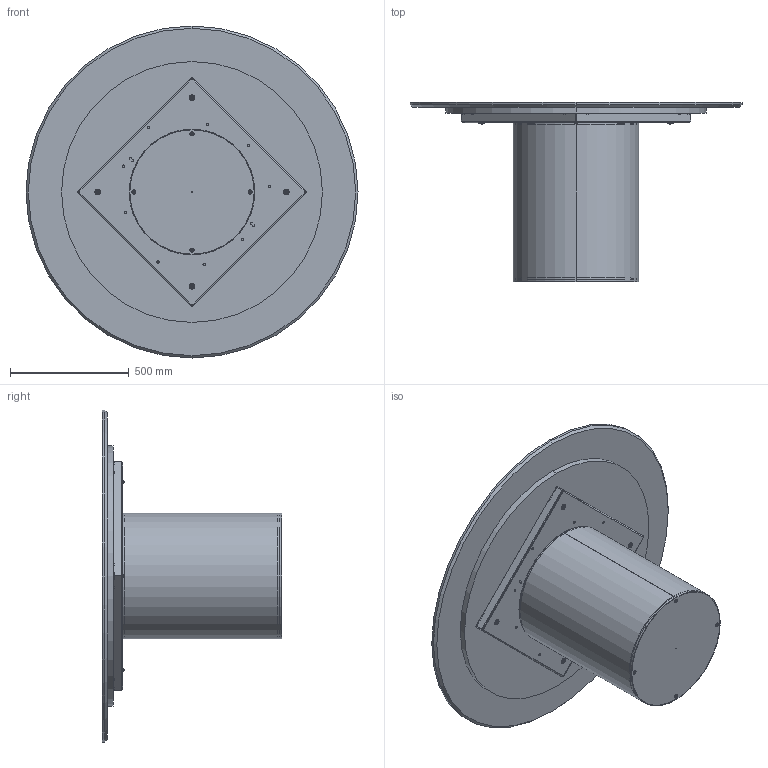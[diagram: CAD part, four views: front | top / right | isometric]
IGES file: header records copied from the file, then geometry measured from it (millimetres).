
Start section: SolidWorks IGES file using analytic representation for surfaces
Global section: file name: Y:\eforma\TECNICO\SOLIDWORKS\E-FORMA\1-TAVOLI\CILINDRO\02 parts\CI06M.IGS; native system: SolidWorks 2022; preprocessor: SolidWorks 2022; author: eforma.tech; date: 240808.090116; units: millimetre
Bounding box: 1400 x 755 x 1400 mm (x, y, z)
Volume: 61627973 mm3; surface area: 9273361.5 mm2
Topology: 24 solids, 24 shells, 874 faces, 2172 edges, 1319 vertices
Faces by surface type: revolution 492, plane 382
